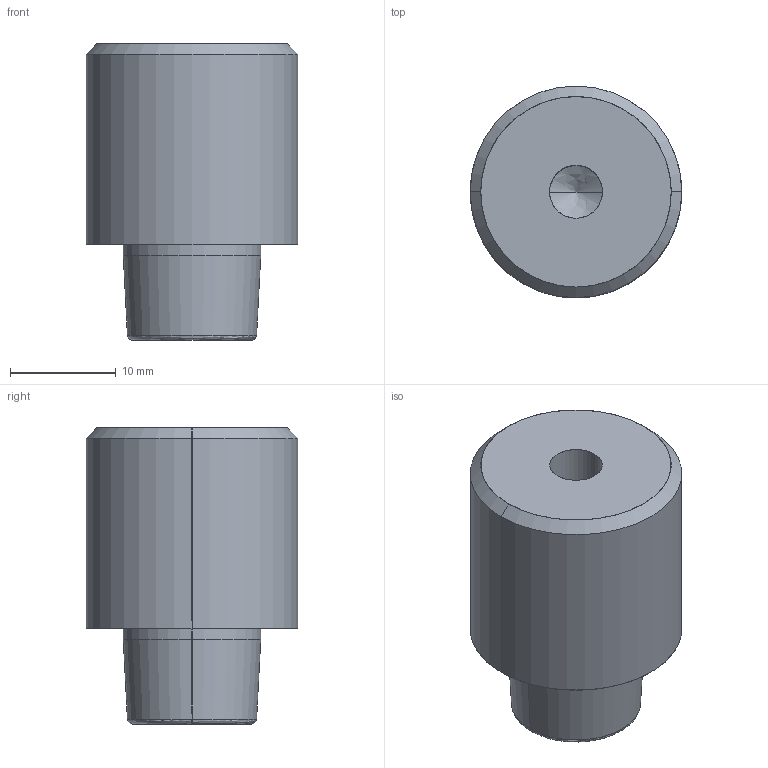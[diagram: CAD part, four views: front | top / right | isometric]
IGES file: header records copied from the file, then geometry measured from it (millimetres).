
Start section: SolidWorks IGES file using analytic representation for surfaces
Global section: file name: D:\Current\W1\ZTPN\ZTPN20-3\ZTPNP20-3.IGS; native system: SolidWorks 2017; preprocessor: SolidWorks 2017; author: Ravi Kalvai; date: 240604.104822; units: millimetre
Bounding box: 20 x 20 x 28 mm (x, y, z)
Surface area: 2340.7 mm2 (no closed solid volume)
Topology: 0 solids, 0 shells, 17 faces, 216 edges, 214 vertices
Faces by surface type: revolution 12, bspline 5
